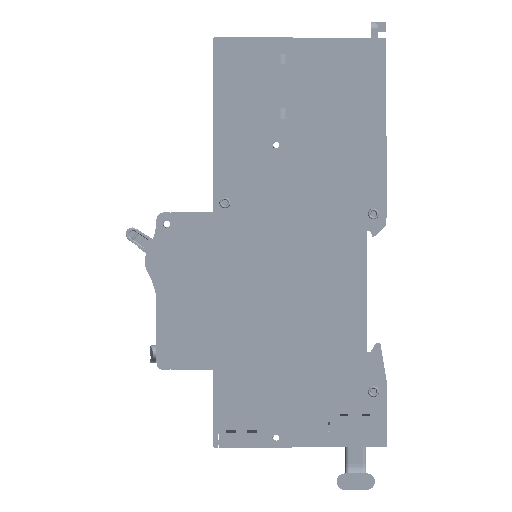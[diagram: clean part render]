
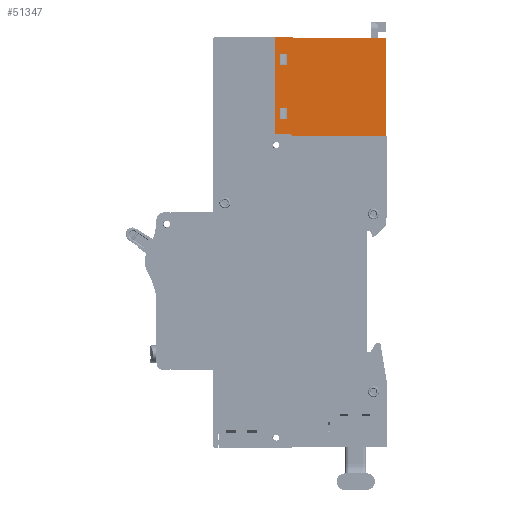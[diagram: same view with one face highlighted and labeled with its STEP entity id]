
A CAD part, left-side view. The second image highlights one B-rep face of the part: STEP entity #51347.
In plain terms, the highlighted planar face has unit normal (-1, 0, 0).
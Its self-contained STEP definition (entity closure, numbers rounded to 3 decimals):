
#796 = VECTOR ( 'NONE', #415042, 1000. ) ;
#1798 = ORIENTED_EDGE ( 'NONE', *, *, #232805, .F. ) ;
#2646 = LINE ( 'NONE', #205602, #282269 ) ;
#7392 = ORIENTED_EDGE ( 'NONE', *, *, #443803, .T. ) ;
#7710 = LINE ( 'NONE', #255464, #372874 ) ;
#8136 = LINE ( 'NONE', #153191, #373316 ) ;
#8874 = DIRECTION ( 'NONE',  ( 0., 0., 1. ) ) ;
#10803 = ORIENTED_EDGE ( 'NONE', *, *, #39221, .F. ) ;
#12412 = FACE_OUTER_BOUND ( 'NONE', #144730, .T. ) ;
#16251 = DIRECTION ( 'NONE',  ( 0., -1., 0. ) ) ;
#17306 = EDGE_CURVE ( 'NONE', #125953, #451025, #145604, .T. ) ;
#17993 = VERTEX_POINT ( 'NONE', #98357 ) ;
#19582 = CARTESIAN_POINT ( 'NONE',  ( -37.746, -1.122, 71.341 ) ) ;
#25101 = CARTESIAN_POINT ( 'NONE',  ( -37.746, 2.728, 47.841 ) ) ;
#26501 = LINE ( 'NONE', #435646, #363303 ) ;
#27614 = LINE ( 'NONE', #88191, #187550 ) ;
#39221 = EDGE_CURVE ( 'NONE', #125953, #261312, #100450, .T. ) ;
#43003 = CARTESIAN_POINT ( 'NONE',  ( -37.746, -27.422, 70.941 ) ) ;
#43057 = CARTESIAN_POINT ( 'NONE',  ( -37.746, 0.878, 66.541 ) ) ;
#45534 = LINE ( 'NONE', #275411, #79988 ) ;
#48482 = VECTOR ( 'NONE', #124645, 1000. ) ;
#51347 = ADVANCED_FACE ( 'NONE', ( #263625, #417854, #12412 ), #230074, .F. ) ;
#60074 = EDGE_LOOP ( 'NONE', ( #229334, #283403, #456327, #62049 ) ) ;
#62049 = ORIENTED_EDGE ( 'NONE', *, *, #391453, .F. ) ;
#69843 = VERTEX_POINT ( 'NONE', #219730 ) ;
#75968 = CARTESIAN_POINT ( 'NONE',  ( -37.746, 4.178, 70.941 ) ) ;
#79988 = VECTOR ( 'NONE', #125527, 1000. ) ;
#83411 = CARTESIAN_POINT ( 'NONE',  ( -37.746, -1.122, 70.941 ) ) ;
#83551 = EDGE_CURVE ( 'NONE', #293122, #399777, #26501, .T. ) ;
#88191 = CARTESIAN_POINT ( 'NONE',  ( -37.746, 0.878, 51.041 ) ) ;
#95409 = EDGE_CURVE ( 'NONE', #412212, #305328, #202907, .T. ) ;
#98357 = CARTESIAN_POINT ( 'NONE',  ( -37.746, 0.878, 63.341 ) ) ;
#99003 = VECTOR ( 'NONE', #133480, 1000. ) ;
#100450 = LINE ( 'NONE', #75968, #431386 ) ;
#101395 = CARTESIAN_POINT ( 'NONE',  ( -37.746, -0.722, 71.341 ) ) ;
#103668 = ORIENTED_EDGE ( 'NONE', *, *, #83551, .F. ) ;
#105613 = CARTESIAN_POINT ( 'NONE',  ( -37.746, -0.822, 43.041 ) ) ;
#106328 = VECTOR ( 'NONE', #211180, 1000. ) ;
#108684 = DIRECTION ( 'NONE',  ( 0., -1., 0. ) ) ;
#119469 = CARTESIAN_POINT ( 'NONE',  ( -37.746, -0.422, 43.441 ) ) ;
#122086 = ORIENTED_EDGE ( 'NONE', *, *, #408504, .F. ) ;
#124645 = DIRECTION ( 'NONE',  ( 0., -1., 0. ) ) ;
#125527 = DIRECTION ( 'NONE',  ( 0., 0., 1. ) ) ;
#125953 = VERTEX_POINT ( 'NONE', #437156 ) ;
#131122 = DIRECTION ( 'NONE',  ( 0., 1., 0. ) ) ;
#132597 = DIRECTION ( 'NONE',  ( 0., 0., 1. ) ) ;
#133480 = DIRECTION ( 'NONE',  ( 0., -0.707, -0.707 ) ) ;
#139308 = EDGE_CURVE ( 'NONE', #451025, #256616, #361294, .T. ) ;
#143474 = VERTEX_POINT ( 'NONE', #101395 ) ;
#144730 = EDGE_LOOP ( 'NONE', ( #103668, #259393, #456455, #10803, #183626, #242349, #7392, #181982 ) ) ;
#145604 = LINE ( 'NONE', #301864, #48482 ) ;
#151221 = EDGE_CURVE ( 'NONE', #293122, #143474, #331802, .T. ) ;
#151614 = DIRECTION ( 'NONE',  ( 0., 1., 0. ) ) ;
#153191 = CARTESIAN_POINT ( 'NONE',  ( -37.746, 0.878, 47.841 ) ) ;
#154073 = VECTOR ( 'NONE', #151614, 1000. ) ;
#156122 = CARTESIAN_POINT ( 'NONE',  ( -37.746, 2.728, 51.041 ) ) ;
#162717 = EDGE_CURVE ( 'NONE', #434318, #69843, #427572, .T. ) ;
#163604 = LINE ( 'NONE', #391499, #106328 ) ;
#165080 = CARTESIAN_POINT ( 'NONE',  ( -37.746, -1.122, 70.941 ) ) ;
#181982 = ORIENTED_EDGE ( 'NONE', *, *, #316926, .F. ) ;
#183626 = ORIENTED_EDGE ( 'NONE', *, *, #17306, .T. ) ;
#187550 = VECTOR ( 'NONE', #193643, 1000. ) ;
#189430 = VECTOR ( 'NONE', #131122, 1000. ) ;
#191610 = VECTOR ( 'NONE', #319415, 1000. ) ;
#193643 = DIRECTION ( 'NONE',  ( 0., 1., 0. ) ) ;
#197597 = VERTEX_POINT ( 'NONE', #402120 ) ;
#197816 = DIRECTION ( 'NONE',  ( 0., -1., 0. ) ) ;
#202907 = LINE ( 'NONE', #214048, #191610 ) ;
#204134 = CARTESIAN_POINT ( 'NONE',  ( -37.746, 2.728, 63.841 ) ) ;
#204386 = CARTESIAN_POINT ( 'NONE',  ( -37.746, 0.878, 51.041 ) ) ;
#205602 = CARTESIAN_POINT ( 'NONE',  ( -37.746, 0.878, 63.341 ) ) ;
#211180 = DIRECTION ( 'NONE',  ( 0., 0., -1. ) ) ;
#211416 = CARTESIAN_POINT ( 'NONE',  ( -37.746, 4.178, 71.341 ) ) ;
#214048 = CARTESIAN_POINT ( 'NONE',  ( -37.746, 2.728, 48.341 ) ) ;
#219730 = CARTESIAN_POINT ( 'NONE',  ( -37.746, 2.728, 63.341 ) ) ;
#229334 = ORIENTED_EDGE ( 'NONE', *, *, #321888, .F. ) ;
#230074 = PLANE ( 'NONE',  #325083 ) ;
#232805 = EDGE_CURVE ( 'NONE', #69843, #17993, #2646, .T. ) ;
#232882 = VECTOR ( 'NONE', #132597, 1000. ) ;
#242349 = ORIENTED_EDGE ( 'NONE', *, *, #139308, .T. ) ;
#247628 = EDGE_LOOP ( 'NONE', ( #122086, #277245, #1798, #358824 ) ) ;
#254593 = VERTEX_POINT ( 'NONE', #204386 ) ;
#255464 = CARTESIAN_POINT ( 'NONE',  ( -37.746, -22.022, 43.041 ) ) ;
#256616 = VERTEX_POINT ( 'NONE', #105613 ) ;
#259393 = ORIENTED_EDGE ( 'NONE', *, *, #151221, .T. ) ;
#261312 = VERTEX_POINT ( 'NONE', #211416 ) ;
#263625 = FACE_BOUND ( 'NONE', #247628, .T. ) ;
#267476 = CARTESIAN_POINT ( 'NONE',  ( -37.746, 0.878, 66.541 ) ) ;
#272509 = CARTESIAN_POINT ( 'NONE',  ( -37.746, -27.422, 43.041 ) ) ;
#272712 = LINE ( 'NONE', #319233, #232882 ) ;
#274852 = LINE ( 'NONE', #19582, #189430 ) ;
#275411 = CARTESIAN_POINT ( 'NONE',  ( -37.746, 0.878, 48.341 ) ) ;
#277245 = ORIENTED_EDGE ( 'NONE', *, *, #409281, .F. ) ;
#282269 = VECTOR ( 'NONE', #314134, 1000. ) ;
#283403 = ORIENTED_EDGE ( 'NONE', *, *, #317885, .F. ) ;
#284359 = DIRECTION ( 'NONE',  ( 0., -1., 0. ) ) ;
#293122 = VERTEX_POINT ( 'NONE', #165080 ) ;
#296325 = VECTOR ( 'NONE', #387509, 1000. ) ;
#301864 = CARTESIAN_POINT ( 'NONE',  ( -37.746, 4.178, 43.441 ) ) ;
#303519 = DIRECTION ( 'NONE',  ( 1., 0., 0. ) ) ;
#305328 = VERTEX_POINT ( 'NONE', #25101 ) ;
#307474 = CARTESIAN_POINT ( 'NONE',  ( -37.746, 2.728, 66.541 ) ) ;
#314134 = DIRECTION ( 'NONE',  ( 0., -1., 0. ) ) ;
#316926 = EDGE_CURVE ( 'NONE', #399777, #463785, #163604, .T. ) ;
#317885 = EDGE_CURVE ( 'NONE', #305328, #197597, #8136, .T. ) ;
#319233 = CARTESIAN_POINT ( 'NONE',  ( -37.746, 0.878, 63.841 ) ) ;
#319415 = DIRECTION ( 'NONE',  ( 0., 0., -1. ) ) ;
#321888 = EDGE_CURVE ( 'NONE', #197597, #254593, #45534, .T. ) ;
#325083 = AXIS2_PLACEMENT_3D ( 'NONE', #411907, #303519, #16251 ) ;
#331802 = LINE ( 'NONE', #83411, #796 ) ;
#358824 = ORIENTED_EDGE ( 'NONE', *, *, #162717, .F. ) ;
#361294 = LINE ( 'NONE', #450942, #99003 ) ;
#363303 = VECTOR ( 'NONE', #108684, 1000. ) ;
#365837 = VERTEX_POINT ( 'NONE', #267476 ) ;
#372874 = VECTOR ( 'NONE', #284359, 1000. ) ;
#373316 = VECTOR ( 'NONE', #197816, 1000. ) ;
#380767 = EDGE_CURVE ( 'NONE', #143474, #261312, #274852, .T. ) ;
#387509 = DIRECTION ( 'NONE',  ( 0., 0., -1. ) ) ;
#391453 = EDGE_CURVE ( 'NONE', #254593, #412212, #27614, .T. ) ;
#391499 = CARTESIAN_POINT ( 'NONE',  ( -37.746, -27.422, 70.941 ) ) ;
#399777 = VERTEX_POINT ( 'NONE', #43003 ) ;
#402120 = CARTESIAN_POINT ( 'NONE',  ( -37.746, 0.878, 47.841 ) ) ;
#408504 = EDGE_CURVE ( 'NONE', #365837, #434318, #439632, .T. ) ;
#409281 = EDGE_CURVE ( 'NONE', #17993, #365837, #272712, .T. ) ;
#411907 = CARTESIAN_POINT ( 'NONE',  ( -37.746, 4.178, 70.941 ) ) ;
#412212 = VERTEX_POINT ( 'NONE', #156122 ) ;
#415042 = DIRECTION ( 'NONE',  ( 0., 0.707, 0.707 ) ) ;
#417854 = FACE_BOUND ( 'NONE', #60074, .T. ) ;
#427572 = LINE ( 'NONE', #204134, #296325 ) ;
#431386 = VECTOR ( 'NONE', #8874, 1000. ) ;
#434318 = VERTEX_POINT ( 'NONE', #307474 ) ;
#435646 = CARTESIAN_POINT ( 'NONE',  ( -37.746, 4.178, 70.941 ) ) ;
#437156 = CARTESIAN_POINT ( 'NONE',  ( -37.746, 4.178, 43.441 ) ) ;
#439632 = LINE ( 'NONE', #43057, #154073 ) ;
#443803 = EDGE_CURVE ( 'NONE', #256616, #463785, #7710, .T. ) ;
#450942 = CARTESIAN_POINT ( 'NONE',  ( -37.746, -0.822, 43.041 ) ) ;
#451025 = VERTEX_POINT ( 'NONE', #119469 ) ;
#456327 = ORIENTED_EDGE ( 'NONE', *, *, #95409, .F. ) ;
#456455 = ORIENTED_EDGE ( 'NONE', *, *, #380767, .T. ) ;
#463785 = VERTEX_POINT ( 'NONE', #272509 ) ;
